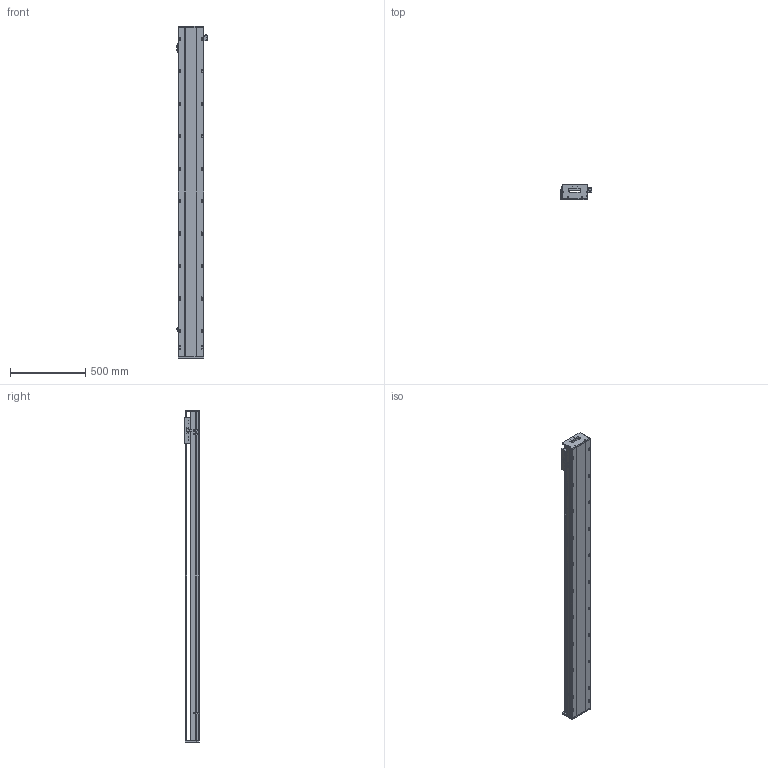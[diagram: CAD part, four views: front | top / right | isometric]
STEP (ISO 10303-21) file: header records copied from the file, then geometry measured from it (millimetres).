
FILE_DESCRIPTION (( 'STEP AP203' ), '1' );
FILE_NAME ('SKR17S-C1-S1938（简）.STEP', '2022-09-29T06:15:41', ( '' ), ( '' ), 'SwSTEP 2.0', 'SolidWorks 2018', '' );
FILE_SCHEMA (( 'CONFIG_CONTROL_DESIGN' ));
Length unit declared in the file: millimetre
Products named in the file (8): 感应片（SKR12S-14S-17S）; SKR17滑台-170L（简）; SKR17S-C1-S1938（简）; SKR17耜啣; SIKO棠掑; SKR17菁釱-C1-S1938(潠); EE-SX672; 棠掑假蚾輸
Assembly tree (10 placements, depth 2):
  SKR17S-C1-S1938（简）
    SKR17菁釱-C1-S1938(潠)
    SKR17滑台-170L（简）
    SIKO棠掑
    EE-SX672  x3
    SKR17耜啣  x2
    棠掑假蚾輸
    感应片（SKR12S-14S-17S）
Bounding box: 212.7 x 97 x 2208 mm (x, y, z)
Volume: 16924295.9 mm3; surface area: 2057476.8 mm2
Topology: 11 solids, 11 shells, 1329 faces, 3701 edges, 2380 vertices
Faces by surface type: cylinder 656, plane 537, cone 136
Entity records: 41606 total; most frequent: CARTESIAN_POINT 11465, ORIENTED_EDGE 6390, DIRECTION 5804, EDGE_CURVE 3195, VERTEX_POINT 2084, AXIS2_PLACEMENT_3D 2071, LINE 1662, VECTOR 1662
